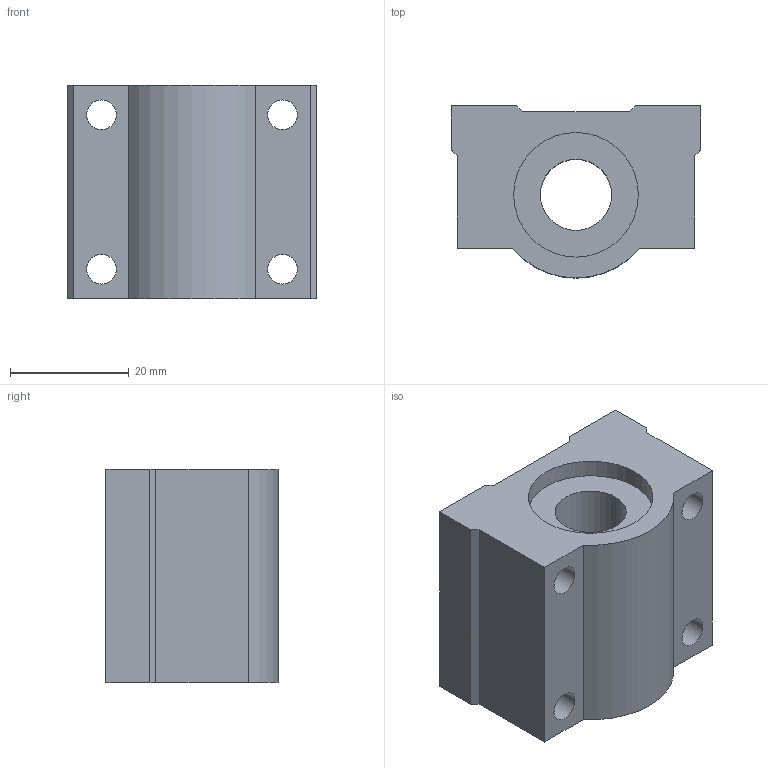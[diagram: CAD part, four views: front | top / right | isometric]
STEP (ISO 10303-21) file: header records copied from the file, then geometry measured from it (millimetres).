
FILE_DESCRIPTION((''),'2;1');
FILE_NAME('C:\Documents and Settings\ｿﾀﾀ蠑ｷ1\ｹﾙﾅﾁ ﾈｭｸ饅\ｺﾎﾇｰﾆﾄﾀﾏ\ﾁｦﾇｰ\SC__UUN\SC12UUN.stp','2005-06-22T14:36:50',('ｿﾀﾀ蠑ｷ1'),(''),'Autodesk Inventor 9','Autodesk Inventor 9','');
FILE_SCHEMA(('AUTOMOTIVE_DESIGN { 1 0 10303 214 1 1 1 1 }'));
Length unit declared in the file: millimetre
Products named in the file (1): SC__UUN
Bounding box: 42 x 29 x 36 mm (x, y, z)
Volume: 29771.3 mm3; surface area: 9561 mm2
Topology: 1 solids, 1 shells, 32 faces, 84 edges, 56 vertices
Faces by surface type: plane 17, bspline 8, cylinder 7
Entity records: 1145 total; most frequent: CARTESIAN_POINT 309, ORIENTED_EDGE 168, DIRECTION 164, EDGE_CURVE 84, VERTEX_POINT 56, AXIS2_PLACEMENT_3D 55, VECTOR 54, LINE 54
